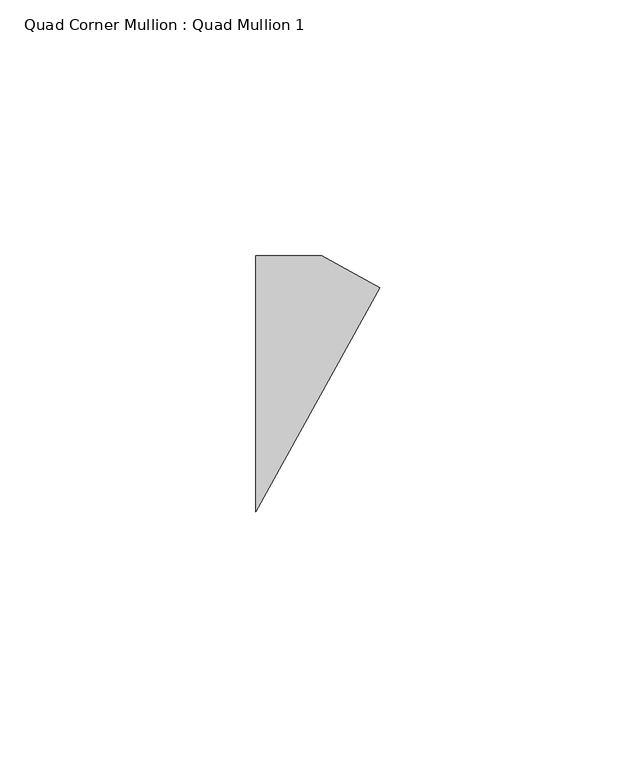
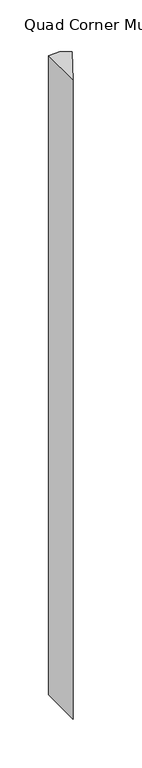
"""IFC4 building model written with IfcOpenShell, lengths in millimetres: member geometry, Quad Corner Mullion : Quad Mullion 1."""

from ifc_helpers import new_model, si_unit, frame, origin, place, context, project, spatial, polyline, outline, extrude, source, transform, mapped, element, save


def quad_corner_mullion_quad_mullion_1_5dc5cbc3(model_context):
    return source(origin(), model_context, "Body", "SweptSolid", [
        extrude(outline(polyline([(17.7750414, 18.7309854), (-6.4654396, -25.0), (-6.4654396, 25.0), (6.4654396, 25.0), (17.7750414, 18.7309854)])), frame((0.0, 0.0, -800.0), z_axis=(0.0, 0.0, 1.0), x_axis=(1.0, 0.0, 0.0)), (0.0, 0.0, 1.0), 800.0),
    ])


if __name__ == "__main__":
    model = new_model("IFC4")
    model_context = context("Model", 3, world=origin())
    ifc_project = project(units=[si_unit("LENGTHUNIT", "METRE", prefix="MILLI")], contexts=[model_context])
    site = spatial("IfcSite", under=ifc_project)
    building = spatial("IfcBuilding", under=site)
    placement = place(None, origin())
    quad_corner_mullion_quad_mullion_1_shape = quad_corner_mullion_quad_mullion_1_5dc5cbc3(model_context)
    element("IfcMember", 1, ObjectType="Quad Corner Mullion : Quad Mullion 1", at=placement, inside=building, context=model_context, shape_type="MappedRepresentation", body=[
        mapped(quad_corner_mullion_quad_mullion_1_shape, transform((0.0, 0.0, 0.0), x_axis=(1.0, 0.0, 0.0), y_axis=(0.0, 1.0, 0.0), z_axis=(0.0, 0.0, 1.0))),
    ])
    save(model, "model.ifc")
